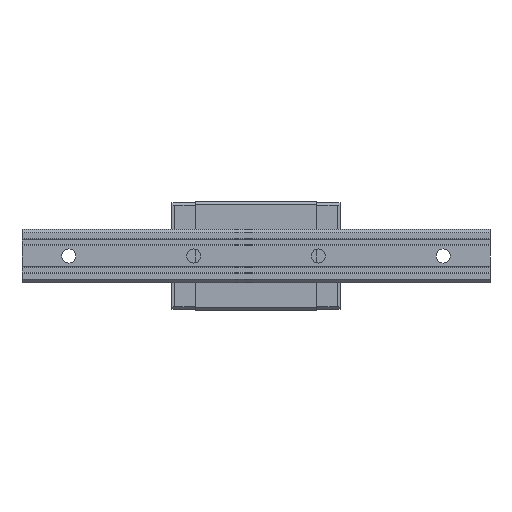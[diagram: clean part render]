
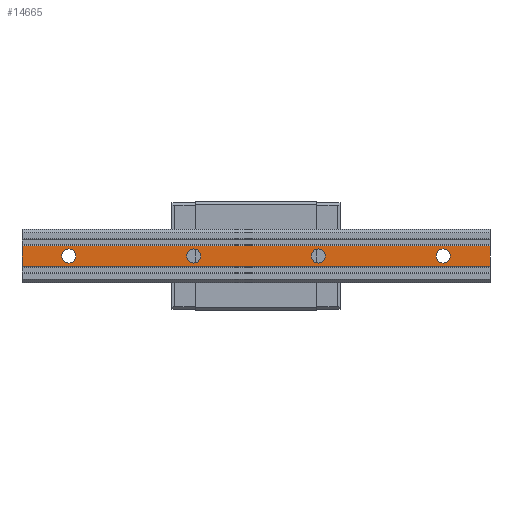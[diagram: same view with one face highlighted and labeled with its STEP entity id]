
A CAD part, front view. The second image highlights one B-rep face of the part: STEP entity #14665.
In plain terms, the highlighted planar face has unit normal (0, -1, 0).
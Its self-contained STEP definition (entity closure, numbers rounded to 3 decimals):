
#328=FACE_BOUND('',#2364,.T.);
#329=FACE_BOUND('',#2365,.T.);
#330=FACE_BOUND('',#2366,.T.);
#331=FACE_BOUND('',#2367,.T.);
#405=CIRCLE('',#15540,4.5);
#409=CIRCLE('',#15547,4.5);
#413=CIRCLE('',#15554,4.5);
#417=CIRCLE('',#15561,4.5);
#946=PLANE('',#15583);
#1526=FACE_OUTER_BOUND('',#2363,.T.);
#2363=EDGE_LOOP('',(#10746,#10747,#10748,#10749));
#2364=EDGE_LOOP('',(#10750));
#2365=EDGE_LOOP('',(#10751));
#2366=EDGE_LOOP('',(#10752));
#2367=EDGE_LOOP('',(#10753));
#3380=LINE('',#23307,#4972);
#3394=LINE('',#23365,#4986);
#3395=LINE('',#23367,#4987);
#3396=LINE('',#23368,#4988);
#4972=VECTOR('',#17170,10.);
#4986=VECTOR('',#17218,79.9);
#4987=VECTOR('',#17219,79.9);
#4988=VECTOR('',#17220,10.);
#6670=VERTEX_POINT('',#23231);
#6674=VERTEX_POINT('',#23242);
#6678=VERTEX_POINT('',#23253);
#6682=VERTEX_POINT('',#23264);
#6701=VERTEX_POINT('',#23304);
#6702=VERTEX_POINT('',#23306);
#6729=VERTEX_POINT('',#23364);
#6730=VERTEX_POINT('',#23366);
#8245=EDGE_CURVE('',#6670,#6670,#405,.T.);
#8249=EDGE_CURVE('',#6674,#6674,#409,.T.);
#8253=EDGE_CURVE('',#6678,#6678,#413,.T.);
#8257=EDGE_CURVE('',#6682,#6682,#417,.T.);
#8276=EDGE_CURVE('',#6701,#6702,#3380,.T.);
#8306=EDGE_CURVE('',#6702,#6729,#3394,.T.);
#8307=EDGE_CURVE('',#6701,#6730,#3395,.T.);
#8308=EDGE_CURVE('',#6729,#6730,#3396,.T.);
#10746=ORIENTED_EDGE('',*,*,#8306,.F.);
#10747=ORIENTED_EDGE('',*,*,#8276,.F.);
#10748=ORIENTED_EDGE('',*,*,#8307,.T.);
#10749=ORIENTED_EDGE('',*,*,#8308,.F.);
#10750=ORIENTED_EDGE('',*,*,#8245,.T.);
#10751=ORIENTED_EDGE('',*,*,#8249,.T.);
#10752=ORIENTED_EDGE('',*,*,#8253,.T.);
#10753=ORIENTED_EDGE('',*,*,#8257,.T.);
#14665=ADVANCED_FACE('',(#1526,#328,#329,#330,#331),#946,.T.);
#15540=AXIS2_PLACEMENT_3D('',#23232,#17100,#17101);
#15547=AXIS2_PLACEMENT_3D('',#23243,#17114,#17115);
#15554=AXIS2_PLACEMENT_3D('',#23254,#17128,#17129);
#15561=AXIS2_PLACEMENT_3D('',#23265,#17142,#17143);
#15583=AXIS2_PLACEMENT_3D('',#23363,#17216,#17217);
#17100=DIRECTION('center_axis',(0.,1.,0.));
#17101=DIRECTION('ref_axis',(1.,0.,0.));
#17114=DIRECTION('center_axis',(0.,1.,0.));
#17115=DIRECTION('ref_axis',(1.,0.,0.));
#17128=DIRECTION('center_axis',(0.,1.,0.));
#17129=DIRECTION('ref_axis',(1.,0.,0.));
#17142=DIRECTION('center_axis',(0.,1.,0.));
#17143=DIRECTION('ref_axis',(1.,0.,0.));
#17170=DIRECTION('',(-1.,0.,0.));
#17216=DIRECTION('center_axis',(0.,-1.,0.));
#17217=DIRECTION('ref_axis',(1.,0.,0.));
#17218=DIRECTION('',(0.,0.,1.));
#17219=DIRECTION('',(0.,0.,1.));
#17220=DIRECTION('',(1.,0.,0.));
#23231=CARTESIAN_POINT('',(-4.5,0.,-130.1));
#23232=CARTESIAN_POINT('Origin',(0.,0.,-130.1));
#23242=CARTESIAN_POINT('',(-4.5,0.,-210.1));
#23243=CARTESIAN_POINT('Origin',(0.,0.,-210.1));
#23253=CARTESIAN_POINT('',(-4.5,0.,-370.1));
#23254=CARTESIAN_POINT('Origin',(0.,0.,-370.1));
#23264=CARTESIAN_POINT('',(-4.5,0.,-290.1));
#23265=CARTESIAN_POINT('Origin',(0.,0.,-290.1));
#23304=CARTESIAN_POINT('',(6.7,0.,-400.1));
#23306=CARTESIAN_POINT('',(-6.7,0.,-400.1));
#23307=CARTESIAN_POINT('',(6.7,0.,-400.1));
#23363=CARTESIAN_POINT('Origin',(-6.7,0.,-140.));
#23364=CARTESIAN_POINT('',(-6.7,0.,-100.1));
#23365=CARTESIAN_POINT('',(-6.7,0.,-140.));
#23366=CARTESIAN_POINT('',(6.7,0.,-100.1));
#23367=CARTESIAN_POINT('',(6.7,0.,-140.));
#23368=CARTESIAN_POINT('',(-3.35,0.,-100.1));
